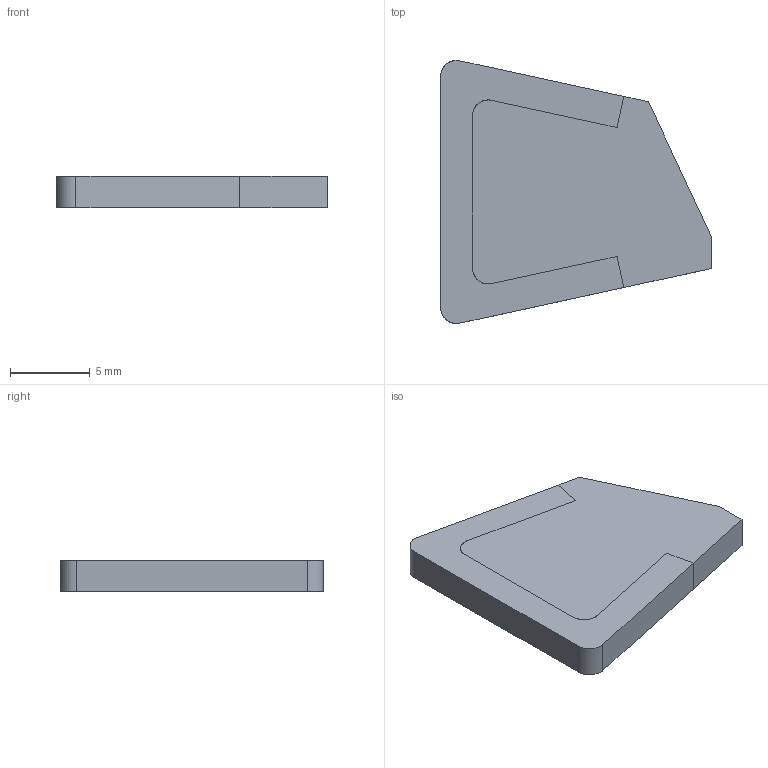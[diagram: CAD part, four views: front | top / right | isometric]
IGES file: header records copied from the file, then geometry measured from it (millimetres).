
Start section: SolidWorks IGES file using analytic representation for surfaces
Global section: file name: C:\Documents and Settings\URETIM3\Desktop\yeni katalog tolgay düzenli\E kataloðu\BS 900 PROFÝL ALPOLEN 1000\MONTAJ\206 KL1 202 MONTAJ.IGS; native system: SolidWorks 2006 by SolidWorks Corporation; preprocessor: SolidWorks 2006 by SolidWorks Corporation; author: URETIM3; date: 060913.091547; units: millimetre
Bounding box: 17 x 16.52 x 2 mm (x, y, z)
Surface area: 582.8 mm2 (no closed solid volume)
Topology: 0 solids, 0 shells, 19 faces, 190 edges, 190 vertices
Faces by surface type: bspline 13, revolution 6
